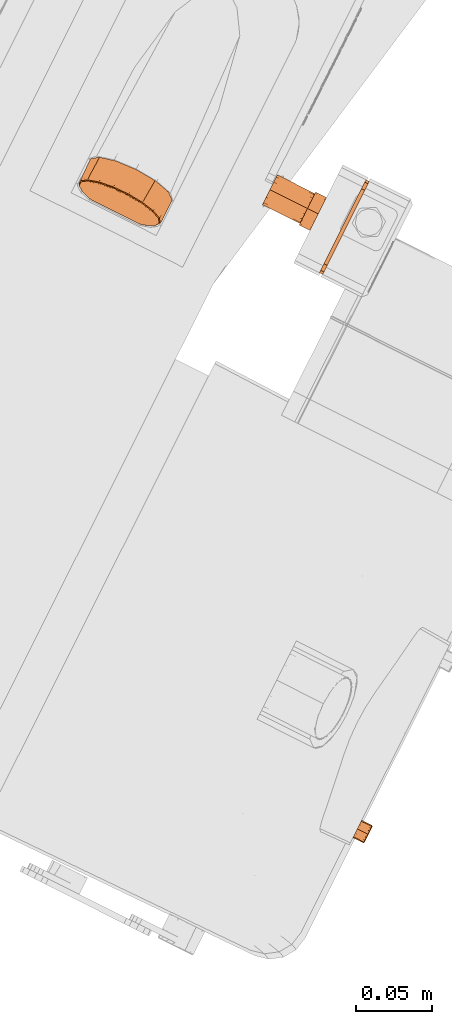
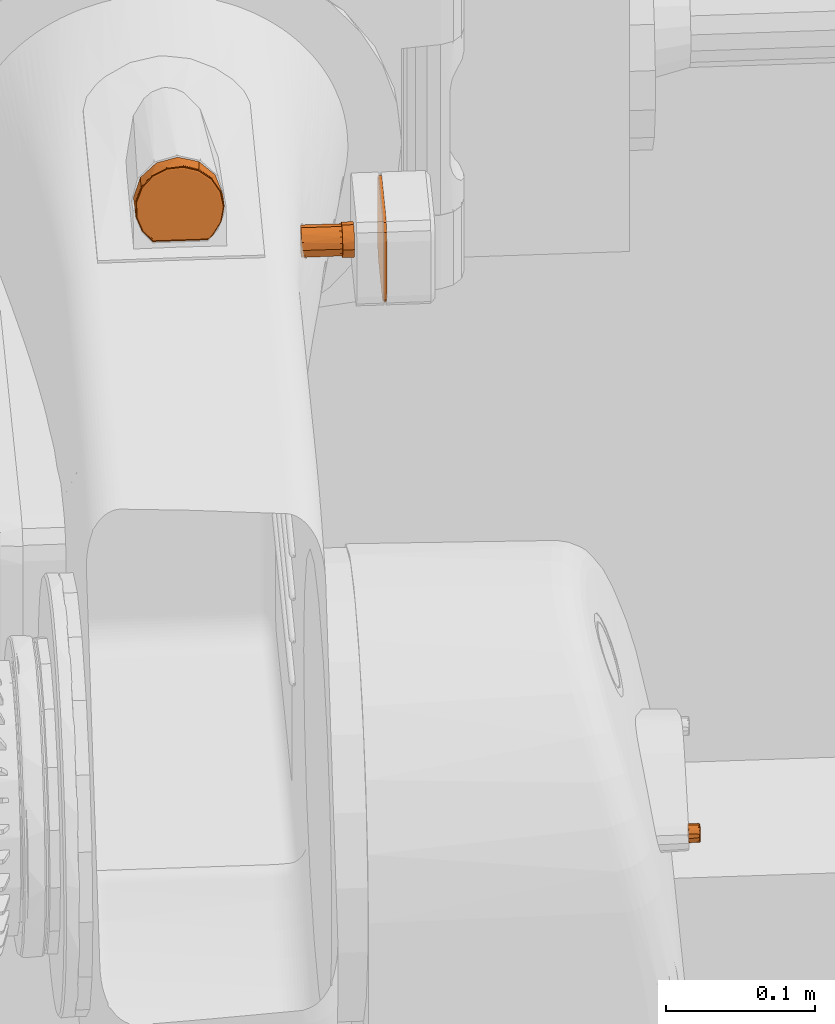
# One storey, part 198 of 206: 4 proxies.
"""IFC2X3 building model written with IfcOpenShell, lengths in metres."""

from ifc_helpers import new_model, si_unit, derived_unit, direction, frame, origin, place, context, subcontext, project, spatial, face_set, faceted_brep, surface_model, source, transform, mapped, material, type_object, type_shapes, element, save


model = new_model("IFC2X3")

# Units and contexts
model_context = context("Model", 3, precision=5.2338327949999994e-05, world=origin(), true_north=direction((0.0, 1.0)))
body_context = subcontext(model_context, "Body", "Model", "MODEL_VIEW")
ifc_project = project(units=[si_unit("LENGTHUNIT", "METRE"), si_unit("AREAUNIT", "SQUARE_METRE"), si_unit("VOLUMEUNIT", "CUBIC_METRE"), si_unit("MASSUNIT", "GRAM", prefix="KILO"), si_unit("PLANEANGLEUNIT", "RADIAN"), derived_unit("THERMALTRANSMITTANCEUNIT", [(si_unit("MASSUNIT", "GRAM", prefix="KILO"), 1), (si_unit("THERMODYNAMICTEMPERATUREUNIT", "KELVIN"), -1), (si_unit("TIMEUNIT", "SECOND"), -3)])], contexts=[model_context])

# Site, building, storey
site_placement = place(None, frame((0.0, 0.0, 0.0), z_axis=(0.0, 0.0, 1.0), x_axis=(0.8939966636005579, -0.4480736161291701, 0.0)))
site = spatial("IfcSite", under=ifc_project, at=site_placement, Name="Default", CompositionType="ELEMENT")
building_placement = place(site_placement, origin())
building = spatial("IfcBuilding", under=site, at=building_placement, CompositionType="ELEMENT")
storey_placement = place(building_placement, origin())
storey = spatial("IfcBuildingStorey", under=building, at=storey_placement, Name="Erdgeschoss", CompositionType="ELEMENT", Elevation=0.0)

# Proxies
ifc_material_1 = material(Name="IfcSurfaceStyle #623543")
building_element_proxy_type_1 = type_object("IfcBuildingElementProxyType", Name="BuildingElementProxy 39:BuildingElementProxy 39", PredefinedType="NOTDEFINED", material=ifc_material_1)
shared_shape_1 = source(origin(), body_context, "Body", "Brep", [
    faceted_brep([(21.460558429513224, 4.428130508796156, 0.976398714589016), (21.460613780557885, 4.428845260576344, 0.9760400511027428), (21.464245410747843, 4.429382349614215, 0.9794378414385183), (21.464270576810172, 4.42973115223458, 0.9793198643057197), (21.47006530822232, 4.431833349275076, 0.9885121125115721), (21.470097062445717, 4.4321849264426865, 0.9884044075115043), (21.472096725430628, 4.434667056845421, 0.999003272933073), (21.47213077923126, 4.435021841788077, 0.9989074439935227), (21.470065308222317, 4.437500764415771, 1.009494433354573), (21.47009706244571, 4.437858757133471, 1.0094104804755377), (21.46424541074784, 4.439951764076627, 1.0185687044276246), (21.464270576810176, 4.440312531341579, 1.0184950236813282), (21.455423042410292, 4.441689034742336, 1.0250005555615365), (21.455438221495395, 4.442051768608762, 1.0249341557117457), (21.44478971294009, 4.442477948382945, 1.0279213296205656), (21.4447928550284, 4.4428415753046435, 1.027858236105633), (21.433781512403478, 4.442211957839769, 1.02693655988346), (21.43377219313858, 4.442575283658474, 1.026872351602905), (21.423885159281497, 4.440926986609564, 1.022179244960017), (21.423864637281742, 4.441288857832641, 1.022109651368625), (21.41643721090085, 4.438796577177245, 1.0142918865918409), (21.416408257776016, 4.439156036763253, 1.0142133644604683), (21.412443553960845, 4.436108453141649, 1.0043397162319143), (21.41241007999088, 4.436464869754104, 1.0042499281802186), (21.412443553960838, 4.433225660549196, 0.9936668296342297), (21.412410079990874, 4.433578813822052, 0.993564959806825), (21.416437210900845, 4.430537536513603, 0.9837146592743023), (21.416408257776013, 4.430887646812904, 0.9836015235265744), (21.42346963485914, 4.428130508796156, 0.9763987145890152), (21.423414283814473, 4.428845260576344, 0.9760400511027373), (21.423624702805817, 4.427619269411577, 0.9769981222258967), (21.416662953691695, 4.429912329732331, 0.9840283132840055), (21.412704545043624, 4.432576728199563, 0.9938926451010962), (21.412704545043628, 4.435434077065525, 1.004471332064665), (21.416662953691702, 4.438098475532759, 1.014335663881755), (21.424045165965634, 4.440210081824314, 1.0221534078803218), (21.433854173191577, 4.441483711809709, 1.0268687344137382), (21.444765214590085, 4.4417473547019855, 1.0278448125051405), (21.45530469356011, 4.440965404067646, 1.0249498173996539), (21.464049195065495, 4.439243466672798, 1.0185747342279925), (21.46981772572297, 4.436814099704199, 1.0095805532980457), (21.471831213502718, 4.434005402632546, 0.9991819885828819), (21.46981772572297, 4.431196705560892, 0.9887834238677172), (21.46404919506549, 4.428767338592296, 0.9797892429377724), (21.460403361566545, 4.427619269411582, 0.9769981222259), (21.423852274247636, 4.427381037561, 0.9777324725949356), (21.41708395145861, 4.429455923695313, 0.9844216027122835), (21.41319127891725, 4.432076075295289, 0.9941221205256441), (21.413191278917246, 4.434885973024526, 1.0045251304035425), (21.41708395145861, 4.4375061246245, 1.0142256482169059), (21.424343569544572, 4.439582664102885, 1.0219135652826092), (21.433989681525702, 4.440835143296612, 1.0265505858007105), (21.44471952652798, 4.441094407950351, 1.027510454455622), (21.455083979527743, 4.440325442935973, 1.0246635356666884), (21.463683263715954, 4.438632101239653, 1.0183943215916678), (21.469355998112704, 4.436243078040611, 1.0095495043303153), (21.471336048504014, 4.433481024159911, 0.9993236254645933), (21.469355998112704, 4.430718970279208, 0.9890977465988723), (21.463683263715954, 4.428329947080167, 0.980252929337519), (21.460175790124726, 4.427381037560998, 0.9777324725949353), (21.424119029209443, 4.427435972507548, 0.9784923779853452), (21.417643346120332, 4.429229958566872, 0.9848414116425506), (21.413838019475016, 4.431791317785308, 0.994324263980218), (21.413838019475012, 4.434538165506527, 1.004493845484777), (21.41764334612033, 4.4370995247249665, 1.0139766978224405), (21.424740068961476, 4.439129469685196, 1.0214921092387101), (21.43416973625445, 4.44035384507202, 1.0260250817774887), (21.444658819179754, 4.440607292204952, 1.026963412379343), (21.454790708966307, 4.439855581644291, 1.0241803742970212), (21.463197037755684, 4.438200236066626, 1.018051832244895), (21.46874248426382, 4.435864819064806, 1.0094054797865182), (21.4706781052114, 4.433164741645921, 0.9994090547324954), (21.46874248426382, 4.430464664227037, 0.9894126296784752), (21.463197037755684, 4.428129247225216, 0.9807662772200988), (21.45990903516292, 4.427435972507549, 0.978492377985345), (21.418108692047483, 4.429231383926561, 0.9851394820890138), (21.414376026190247, 4.431743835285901, 0.994441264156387), (21.414376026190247, 4.434438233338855, 1.004416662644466), (21.418108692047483, 4.436950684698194, 1.0137184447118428), (21.425069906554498, 4.438941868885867, 1.0210903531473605), (21.434319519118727, 4.440142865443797, 1.0255367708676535), (21.44460831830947, 4.440391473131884, 1.026457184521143), (21.454546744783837, 4.43965411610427, 1.0237272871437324), (21.462792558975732, 4.438030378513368, 1.0177157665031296), (21.4682321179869, 4.43573955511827, 1.0092345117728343), (21.470130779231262, 4.433091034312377, 0.9994289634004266), (21.468232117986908, 4.430442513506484, 0.9896234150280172), (21.462792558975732, 4.428151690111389, 0.981142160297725), (21.42341428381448, 4.44437828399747, 0.9718445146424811), (21.41439261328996, 4.447424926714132, 0.9831240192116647), (21.41200664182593, 4.451223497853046, 0.997187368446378), (21.416829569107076, 4.454861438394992, 1.010656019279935), (21.427702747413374, 4.457464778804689, 1.0202942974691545), (21.44201403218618, 4.458408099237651, 1.0237867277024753), (21.45632531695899, 4.457464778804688, 1.0202942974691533), (21.467198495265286, 4.454861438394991, 1.0106560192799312), (21.472021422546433, 4.451223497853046, 0.9971873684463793), (21.469635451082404, 4.44742492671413, 0.9831240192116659), (21.460613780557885, 4.4443782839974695, 0.9718445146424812)], [[[0, 1, 2]], [[2, 1, 3]], [[2, 3, 4]], [[4, 3, 5]], [[4, 5, 6]], [[6, 5, 7]], [[6, 7, 8]], [[8, 7, 9]], [[8, 9, 10]], [[10, 9, 11]], [[10, 11, 12]], [[12, 11, 13]], [[12, 13, 14]], [[14, 13, 15]], [[14, 15, 16]], [[16, 15, 17]], [[16, 17, 18]], [[18, 17, 19]], [[18, 19, 20]], [[20, 19, 21]], [[20, 21, 22]], [[22, 21, 23]], [[22, 23, 24]], [[24, 23, 25]], [[24, 25, 26]], [[26, 25, 27]], [[26, 27, 28]], [[28, 27, 29]], [[28, 30, 26]], [[26, 30, 31]], [[26, 31, 24]], [[24, 31, 32]], [[24, 32, 22]], [[22, 32, 33]], [[22, 33, 20]], [[20, 33, 34]], [[20, 34, 18]], [[18, 34, 35]], [[18, 35, 16]], [[16, 35, 36]], [[16, 36, 14]], [[14, 36, 37]], [[14, 37, 12]], [[12, 37, 38]], [[12, 38, 10]], [[10, 38, 39]], [[10, 39, 8]], [[8, 39, 40]], [[8, 40, 6]], [[6, 40, 41]], [[6, 41, 4]], [[4, 41, 42]], [[4, 42, 2]], [[2, 42, 43]], [[2, 43, 0]], [[0, 43, 44]], [[30, 45, 31]], [[31, 45, 46]], [[31, 46, 32]], [[32, 46, 47]], [[32, 47, 33]], [[33, 47, 48]], [[33, 48, 34]], [[34, 48, 49]], [[34, 49, 35]], [[35, 49, 50]], [[35, 50, 36]], [[36, 50, 51]], [[36, 51, 37]], [[37, 51, 52]], [[37, 52, 38]], [[38, 52, 53]], [[38, 53, 39]], [[39, 53, 54]], [[39, 54, 40]], [[40, 54, 55]], [[40, 55, 41]], [[41, 55, 56]], [[41, 56, 42]], [[42, 56, 57]], [[42, 57, 43]], [[43, 57, 58]], [[43, 58, 44]], [[44, 58, 59]], [[45, 60, 46]], [[46, 60, 61]], [[46, 61, 47]], [[47, 61, 62]], [[47, 62, 48]], [[48, 62, 63]], [[48, 63, 49]], [[49, 63, 64]], [[49, 64, 50]], [[50, 64, 65]], [[50, 65, 51]], [[51, 65, 66]], [[51, 66, 52]], [[52, 66, 67]], [[52, 67, 53]], [[53, 67, 68]], [[53, 68, 54]], [[54, 68, 69]], [[54, 69, 55]], [[55, 69, 70]], [[55, 70, 56]], [[56, 70, 71]], [[56, 71, 57]], [[57, 71, 72]], [[57, 72, 58]], [[58, 72, 73]], [[58, 73, 59]], [[59, 73, 74]], [[60, 75, 61]], [[61, 75, 62]], [[75, 76, 62]], [[62, 76, 63]], [[76, 77, 63]], [[63, 77, 64]], [[77, 78, 64]], [[64, 78, 65]], [[78, 79, 65]], [[65, 79, 66]], [[79, 80, 66]], [[66, 80, 67]], [[80, 81, 67]], [[67, 81, 68]], [[81, 82, 68]], [[68, 82, 69]], [[82, 83, 69]], [[69, 83, 70]], [[83, 84, 70]], [[70, 84, 71]], [[84, 85, 71]], [[71, 85, 72]], [[85, 86, 72]], [[72, 86, 73]], [[86, 87, 73]], [[73, 87, 74]], [[60, 45, 74]], [[74, 45, 59]], [[45, 30, 59]], [[59, 30, 44]], [[30, 28, 44]], [[44, 28, 0]], [[28, 29, 0]], [[0, 29, 1]], [[29, 27, 88]], [[88, 27, 89]], [[27, 25, 89]], [[89, 25, 90]], [[25, 23, 90]], [[90, 23, 91]], [[23, 21, 91]], [[91, 21, 19]], [[91, 19, 92]], [[92, 19, 17]], [[92, 17, 93]], [[93, 17, 15]], [[93, 15, 94]], [[94, 15, 13]], [[94, 13, 11]], [[94, 11, 95]], [[95, 11, 9]], [[95, 9, 96]], [[96, 9, 7]], [[96, 7, 97]], [[97, 7, 5]], [[97, 5, 3]], [[1, 98, 3]], [[3, 98, 97]], [[74, 87, 60]], [[60, 87, 75]], [[87, 86, 75]], [[75, 86, 76]], [[86, 85, 76]], [[76, 85, 77]], [[85, 84, 77]], [[77, 84, 78]], [[84, 83, 78]], [[78, 83, 79]], [[83, 82, 79]], [[79, 82, 80]], [[82, 81, 80]], [[1, 29, 98]], [[98, 29, 88]], [[98, 88, 97]], [[97, 88, 89]], [[97, 89, 96]], [[96, 89, 90]], [[96, 90, 95]], [[95, 90, 91]], [[95, 91, 94]], [[94, 91, 92]], [[94, 92, 93]]]),
])
type_shapes(building_element_proxy_type_1, [shared_shape_1])
proxy_1_placement = place(storey_placement, origin())
element("IfcBuildingElementProxy", 1, at=proxy_1_placement, inside=storey, type_object=building_element_proxy_type_1, material=ifc_material_1, Name="BuildingElementProxy 39", context=body_context, shape_type="MappedRepresentation", body=[
    mapped(shared_shape_1, transform((0.0, 0.0, 0.0), scale=1.0)),
])
ifc_material_2 = material(Name="IfcSurfaceStyle #631137")
building_element_proxy_type_2 = type_object("IfcBuildingElementProxyType", Name="BuildingElementProxy 42:BuildingElementProxy 42", PredefinedType="NOTDEFINED", material=ifc_material_2)
shared_shape_2 = source(origin(), body_context, "Body", "Brep", [
    faceted_brep([(21.579860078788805, 4.506741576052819, 0.898166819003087), (21.579860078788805, 4.464941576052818, 0.898166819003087), (21.579860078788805, 4.520041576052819, 0.9114668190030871), (21.579860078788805, 4.451641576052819, 0.9114668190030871), (21.579860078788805, 4.520041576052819, 0.9532668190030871), (21.579860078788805, 4.451641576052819, 0.953266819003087), (21.579860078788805, 4.5067415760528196, 0.9665668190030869), (21.579860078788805, 4.464941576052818, 0.9665668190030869), (21.579860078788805, 4.518259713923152, 0.9048168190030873), (21.579860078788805, 4.513391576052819, 0.8999486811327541), (21.579860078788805, 4.458291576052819, 0.8999486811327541), (21.579860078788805, 4.453423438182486, 0.904816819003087), (21.579860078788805, 4.453423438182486, 0.9599168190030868), (21.579860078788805, 4.45829157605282, 0.9647849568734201), (21.579860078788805, 4.513391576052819, 0.96478495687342), (21.579860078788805, 4.518259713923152, 0.9599168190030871), (21.582275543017, 4.451641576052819, 0.9114668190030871), (21.582275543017, 4.451641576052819, 0.953266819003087), (21.582275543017, 4.464941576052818, 0.898166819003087), (21.582275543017, 4.458291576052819, 0.8999486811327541), (21.582275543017, 4.453423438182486, 0.904816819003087), (21.582275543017, 4.506741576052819, 0.8981668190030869), (21.582275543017, 4.520041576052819, 0.9114668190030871), (21.582275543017, 4.518259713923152, 0.9048168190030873), (21.582275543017, 4.513391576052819, 0.8999486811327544), (21.582275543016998, 4.520041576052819, 0.9532668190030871), (21.582275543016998, 4.464941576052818, 0.9665668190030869), (21.582275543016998, 4.5067415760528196, 0.9665668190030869), (21.582275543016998, 4.518259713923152, 0.9599168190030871), (21.582275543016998, 4.513391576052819, 0.96478495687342), (21.582275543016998, 4.45829157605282, 0.9647849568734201), (21.582275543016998, 4.453423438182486, 0.9599168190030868)], [[[0, 1, 2]], [[2, 1, 3]], [[2, 3, 4]], [[4, 3, 5]], [[4, 5, 6]], [[6, 5, 7]], [[8, 9, 2]], [[2, 9, 0]], [[1, 10, 3]], [[3, 10, 11]], [[5, 12, 7]], [[7, 12, 13]], [[14, 15, 6]], [[6, 15, 4]], [[16, 17, 3]], [[3, 17, 5]], [[18, 19, 1]], [[1, 19, 10]], [[19, 20, 10]], [[10, 20, 11]], [[20, 16, 11]], [[11, 16, 3]], [[0, 21, 1]], [[1, 21, 18]], [[22, 23, 2]], [[2, 23, 8]], [[23, 24, 8]], [[8, 24, 9]], [[24, 21, 9]], [[9, 21, 0]], [[20, 18, 16]], [[16, 18, 21]], [[16, 21, 22]], [[22, 21, 23]], [[20, 19, 18]], [[21, 24, 23]], [[16, 22, 17]], [[17, 22, 25]], [[17, 25, 26]], [[26, 25, 27]], [[28, 29, 25]], [[25, 29, 27]], [[26, 30, 17]], [[17, 30, 31]], [[25, 22, 4]], [[4, 22, 2]], [[27, 29, 6]], [[6, 29, 14]], [[29, 28, 14]], [[14, 28, 15]], [[28, 25, 15]], [[15, 25, 4]], [[7, 26, 6]], [[6, 26, 27]], [[17, 31, 5]], [[5, 31, 12]], [[31, 30, 12]], [[12, 30, 13]], [[30, 26, 13]], [[13, 26, 7]]]),
])
type_shapes(building_element_proxy_type_2, [shared_shape_2])
proxy_2_placement = place(storey_placement, origin())
element("IfcBuildingElementProxy", 2, at=proxy_2_placement, inside=storey, type_object=building_element_proxy_type_2, material=ifc_material_2, Name="BuildingElementProxy 42", context=body_context, shape_type="MappedRepresentation", body=[
    mapped(shared_shape_2, transform((0.0, 0.0, 0.0), scale=1.0)),
])
ifc_material_3 = material(Name="IfcSurfaceStyle #624876")
building_element_proxy_type_3 = type_object("IfcBuildingElementProxyType", Name="BuildingElementProxy 46:BuildingElementProxy 46", PredefinedType="NOTDEFINED", material=ifc_material_3)
shared_shape_3 = source(origin(), body_context, "Body", "Brep", [
    faceted_brep([(21.56192166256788, 4.479808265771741, 0.921916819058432), (21.56192166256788, 4.491874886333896, 0.921916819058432), (21.56192166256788, 4.475391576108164, 0.9263335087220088), (21.56192166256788, 4.496291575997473, 0.9263335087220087), (21.56192166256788, 4.473774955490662, 0.9323668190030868), (21.56192166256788, 4.497908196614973, 0.9323668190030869), (21.56192166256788, 4.475391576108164, 0.9384001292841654), (21.56192166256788, 4.496291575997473, 0.9384001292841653), (21.56192166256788, 4.47980826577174, 0.9428168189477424), (21.56192166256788, 4.491874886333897, 0.942816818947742), (21.56192166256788, 4.485841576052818, 0.9444334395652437), (21.56192166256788, 4.4858415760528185, 0.9203001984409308), (21.553921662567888, 4.474693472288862, 0.9369845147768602), (21.553921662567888, 4.473774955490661, 0.9323668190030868), (21.553921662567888, 4.474693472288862, 0.9277491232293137), (21.553921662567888, 4.477309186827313, 0.9238344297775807), (21.553921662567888, 4.481223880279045, 0.9212187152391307), (21.553921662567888, 4.4858415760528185, 0.9203001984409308), (21.553921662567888, 4.490459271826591, 0.9212187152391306), (21.553921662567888, 4.494373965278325, 0.9238344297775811), (21.553921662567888, 4.496989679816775, 0.9277491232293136), (21.553921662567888, 4.497908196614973, 0.9323668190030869), (21.553921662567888, 4.4969896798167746, 0.9369845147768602), (21.553921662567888, 4.494373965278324, 0.9408992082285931), (21.553921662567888, 4.490459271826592, 0.9435149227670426), (21.553921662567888, 4.485841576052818, 0.9444334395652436), (21.553921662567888, 4.481223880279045, 0.9435149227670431), (21.553921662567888, 4.477309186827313, 0.9408992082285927), (21.553921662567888, 4.4816436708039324, 0.9425014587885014), (21.553921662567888, 4.485841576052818, 0.9433364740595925), (21.526421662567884, 4.485841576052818, 0.9433364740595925), (21.553921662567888, 4.490039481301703, 0.9425014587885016), (21.526421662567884, 4.491326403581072, 0.9418668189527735), (21.553921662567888, 4.493598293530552, 0.9401235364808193), (21.526421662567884, 4.495341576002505, 0.9378516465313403), (21.553921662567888, 4.495976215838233, 0.9365647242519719), (21.526421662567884, 4.496811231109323, 0.9323668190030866), (21.553921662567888, 4.496811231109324, 0.9323668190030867), (21.553921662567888, 4.495976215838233, 0.9281689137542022), (21.526421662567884, 4.4803567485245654, 0.9418668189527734), (21.553921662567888, 4.4780848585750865, 0.9401235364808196), (21.526421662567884, 4.476341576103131, 0.9378516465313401), (21.553921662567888, 4.475706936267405, 0.9365647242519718), (21.526421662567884, 4.4748719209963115, 0.9323668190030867), (21.553921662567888, 4.474871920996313, 0.9323668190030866), (21.553921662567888, 4.475706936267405, 0.9281689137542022), (21.526421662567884, 4.476341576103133, 0.9268819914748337), (21.553921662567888, 4.478084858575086, 0.9246101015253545), (21.526421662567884, 4.480356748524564, 0.9228668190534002), (21.553921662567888, 4.4816436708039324, 0.9222321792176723), (21.526421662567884, 4.485841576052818, 0.9213971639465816), (21.553921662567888, 4.485841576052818, 0.9213971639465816), (21.553921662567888, 4.490039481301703, 0.922232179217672), (21.526421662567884, 4.491326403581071, 0.9228668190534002), (21.553921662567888, 4.4935982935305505, 0.9246101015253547), (21.526421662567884, 4.495341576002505, 0.9268819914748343)], [[[0, 1, 2]], [[2, 1, 3]], [[2, 3, 4]], [[4, 3, 5]], [[4, 5, 6]], [[6, 5, 7]], [[6, 7, 8]], [[8, 7, 9]], [[8, 9, 10]], [[0, 11, 1]], [[12, 13, 4]], [[4, 13, 14]], [[4, 14, 2]], [[2, 14, 15]], [[2, 15, 0]], [[0, 15, 16]], [[0, 16, 11]], [[11, 16, 17]], [[11, 17, 18]], [[11, 18, 1]], [[1, 18, 19]], [[1, 19, 3]], [[3, 19, 20]], [[3, 20, 5]], [[5, 20, 21]], [[5, 21, 22]], [[5, 22, 7]], [[7, 22, 23]], [[7, 23, 9]], [[9, 23, 24]], [[9, 24, 10]], [[10, 24, 25]], [[10, 25, 26]], [[10, 26, 8]], [[8, 26, 27]], [[8, 27, 6]], [[6, 27, 12]], [[6, 12, 4]], [[28, 29, 30]], [[30, 29, 31]], [[30, 31, 32]], [[32, 31, 33]], [[32, 33, 34]], [[34, 33, 35]], [[34, 35, 36]], [[36, 35, 37]], [[36, 37, 38]], [[30, 39, 28]], [[28, 39, 40]], [[39, 41, 40]], [[40, 41, 42]], [[41, 43, 42]], [[42, 43, 44]], [[44, 43, 45]], [[45, 43, 46]], [[45, 46, 47]], [[47, 46, 48]], [[47, 48, 49]], [[49, 48, 50]], [[49, 50, 51]], [[51, 50, 52]], [[50, 53, 52]], [[52, 53, 54]], [[53, 55, 54]], [[54, 55, 38]], [[55, 36, 38]], [[36, 55, 34]], [[34, 55, 32]], [[55, 53, 32]], [[32, 53, 30]], [[53, 50, 30]], [[30, 50, 39]], [[50, 48, 39]], [[39, 48, 41]], [[48, 46, 41]], [[41, 46, 43]], [[42, 44, 13]], [[13, 44, 45]], [[13, 45, 14]], [[14, 45, 47]], [[14, 47, 15]], [[15, 47, 49]], [[15, 49, 16]], [[16, 49, 51]], [[16, 51, 17]], [[17, 51, 18]], [[51, 52, 18]], [[18, 52, 19]], [[52, 54, 19]], [[19, 54, 20]], [[54, 38, 20]], [[20, 38, 21]], [[38, 37, 21]], [[21, 37, 22]], [[37, 35, 22]], [[22, 35, 33]], [[22, 33, 23]], [[23, 33, 31]], [[23, 31, 24]], [[24, 31, 29]], [[24, 29, 25]], [[25, 29, 26]], [[29, 28, 26]], [[26, 28, 27]], [[28, 40, 27]], [[27, 40, 12]], [[40, 42, 12]], [[12, 42, 13]]]),
])
type_shapes(building_element_proxy_type_3, [shared_shape_3])
proxy_3_placement = place(storey_placement, origin())
element("IfcBuildingElementProxy", 3, at=proxy_3_placement, inside=storey, type_object=building_element_proxy_type_3, material=ifc_material_3, Name="BuildingElementProxy 46", context=body_context, shape_type="MappedRepresentation", body=[
    mapped(shared_shape_3, transform((0.0, 0.0, 0.0), scale=1.0)),
])
building_element_proxy_type_4 = type_object("IfcBuildingElementProxyType", Name="BuildingElementProxy 53:BuildingElementProxy 53", PredefinedType="NOTDEFINED", material=ifc_material_2)
shared_shape_4 = source(origin(), body_context, "Body", "SurfaceModel", [
    surface_model("IfcFaceBasedSurfaceModel", [(21.772947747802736, 4.13403603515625, 0.6884261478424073), (21.773131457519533, 4.1340424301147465, 0.6884102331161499), (21.772947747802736, 4.136384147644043, 0.6888650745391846), (21.773131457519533, 4.136384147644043, 0.6888479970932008), (21.772947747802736, 4.138732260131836, 0.6884261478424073), (21.773131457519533, 4.138726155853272, 0.6884102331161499), (21.772947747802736, 4.140763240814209, 0.687168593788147), (21.773131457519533, 4.1407519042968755, 0.6871560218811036), (21.772947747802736, 4.1422026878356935, 0.6852623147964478), (21.773131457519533, 4.142187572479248, 0.6852547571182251), (21.772947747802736, 4.142856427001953, 0.6829647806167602), (21.773131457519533, 4.142839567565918, 0.6829631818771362), (21.772947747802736, 4.1426360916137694, 0.680586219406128), (21.773131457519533, 4.142619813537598, 0.6805908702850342), (21.772947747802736, 4.14157133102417, 0.6784479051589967), (21.773131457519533, 4.141557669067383, 0.678458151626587), (21.772947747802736, 4.139806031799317, 0.6768386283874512), (21.773131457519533, 4.139797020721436, 0.6768530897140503), (21.772947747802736, 4.137578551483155, 0.6759756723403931), (21.773131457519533, 4.137575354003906, 0.6759924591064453), (21.772947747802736, 4.135189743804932, 0.6759756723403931), (21.773131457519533, 4.1351929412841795, 0.6759924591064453), (21.772947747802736, 4.1329622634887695, 0.6768386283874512), (21.773131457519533, 4.132971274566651, 0.6768530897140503), (21.772947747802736, 4.131196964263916, 0.6784479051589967), (21.773131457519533, 4.131210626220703, 0.678458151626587), (21.772947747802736, 4.130132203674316, 0.680586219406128), (21.773131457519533, 4.13014877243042, 0.6805908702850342), (21.772947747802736, 4.129911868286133, 0.6829647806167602), (21.773131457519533, 4.1299290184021, 0.6829631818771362), (21.772947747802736, 4.130565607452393, 0.6852623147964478), (21.773131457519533, 4.1305810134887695, 0.6852547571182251), (21.772947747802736, 4.132005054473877, 0.687168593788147), (21.773131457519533, 4.132016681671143, 0.6871560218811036), (21.773947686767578, 4.136384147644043, 0.6878650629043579), (21.773947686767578, 4.138370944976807, 0.6874936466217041), (21.77391047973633, 4.138469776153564, 0.6877488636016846), (21.77391047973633, 4.136384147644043, 0.6881387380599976), (21.773947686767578, 4.134397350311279, 0.6874936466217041), (21.77391047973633, 4.134298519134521, 0.6877488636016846), (21.773947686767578, 4.13267885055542, 0.6864296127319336), (21.77391047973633, 4.13249455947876, 0.6866318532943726), (21.773947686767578, 4.131460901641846, 0.6848166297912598), (21.77391047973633, 4.1312158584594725, 0.6849385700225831), (21.773947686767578, 4.130907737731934, 0.6828724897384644), (21.77391047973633, 4.130635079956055, 0.6828977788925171), (21.773947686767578, 4.131094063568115, 0.6808598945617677), (21.77391047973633, 4.130830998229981, 0.6807849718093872), (21.773947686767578, 4.131995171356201, 0.6790505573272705), (21.77391047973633, 4.131776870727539, 0.6788855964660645), (21.773947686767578, 4.1334889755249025, 0.6776888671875), (21.77391047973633, 4.1333447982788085, 0.6774561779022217), (21.773947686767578, 4.135373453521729, 0.6769586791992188), (21.77391047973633, 4.1353231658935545, 0.6766896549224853), (21.773947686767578, 4.1373948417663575, 0.6769586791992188), (21.77391047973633, 4.137445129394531, 0.6766896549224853), (21.773947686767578, 4.139279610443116, 0.6776888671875), (21.77391047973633, 4.139423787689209, 0.6774561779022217), (21.773947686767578, 4.140773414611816, 0.6790505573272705), (21.77391047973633, 4.140991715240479, 0.6788855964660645), (21.773947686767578, 4.141674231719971, 0.6808598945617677), (21.77391047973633, 4.141937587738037, 0.6807849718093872), (21.773947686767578, 4.141860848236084, 0.6828724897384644), (21.77391047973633, 4.142133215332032, 0.6828977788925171), (21.773947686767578, 4.141307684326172, 0.6848166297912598), (21.77391047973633, 4.141552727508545, 0.6849385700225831), (21.773947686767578, 4.140089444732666, 0.6864296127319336), (21.77391047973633, 4.140274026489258, 0.6866318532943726), (21.773473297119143, 4.136384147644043, 0.6887153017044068), (21.773473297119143, 4.138678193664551, 0.688286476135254), (21.773473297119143, 4.14066237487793, 0.6870579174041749), (21.773473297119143, 4.142068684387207, 0.6851956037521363), (21.773473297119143, 4.142707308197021, 0.6829509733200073), (21.773473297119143, 4.142491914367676, 0.6806272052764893), (21.773473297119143, 4.141451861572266, 0.678538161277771), (21.773473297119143, 4.139727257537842, 0.6769659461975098), (21.773473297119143, 4.137550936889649, 0.676122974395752), (21.773473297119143, 4.135217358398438, 0.676122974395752), (21.773473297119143, 4.133041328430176, 0.6769659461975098), (21.773473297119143, 4.131316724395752, 0.678538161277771), (21.773473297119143, 4.13027638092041, 0.6806272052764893), (21.773473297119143, 4.130060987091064, 0.6829509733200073), (21.773473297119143, 4.130699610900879, 0.6851956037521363), (21.773473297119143, 4.132106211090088, 0.6870579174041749), (21.773473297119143, 4.134090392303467, 0.688286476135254), (21.773745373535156, 4.136384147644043, 0.6884677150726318), (21.773745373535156, 4.138588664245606, 0.6880556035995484), (21.773745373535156, 4.140495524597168, 0.686874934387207), (21.773745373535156, 4.141847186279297, 0.6850852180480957), (21.773745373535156, 4.14246081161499, 0.6829281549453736), (21.773745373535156, 4.142253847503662, 0.6806950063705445), (21.773745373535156, 4.14125419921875, 0.6786873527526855), (21.773745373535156, 4.139596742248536, 0.6771764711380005), (21.773745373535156, 4.137505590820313, 0.6763662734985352), (21.773745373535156, 4.135262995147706, 0.6763662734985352), (21.773745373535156, 4.133171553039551, 0.6771764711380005), (21.773745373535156, 4.131514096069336, 0.6786873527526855), (21.773745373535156, 4.1305144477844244, 0.6806950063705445), (21.773745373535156, 4.1303074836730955, 0.6829281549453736), (21.773745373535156, 4.130921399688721, 0.6850852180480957), (21.773745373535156, 4.132272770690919, 0.686874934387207), (21.773745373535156, 4.134179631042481, 0.6880556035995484), (21.76573888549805, 4.130755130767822, 0.6856150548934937), (21.76573888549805, 4.133134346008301, 0.6879941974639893), (21.76573888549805, 4.136384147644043, 0.6888650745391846), (21.76573888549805, 4.1298842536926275, 0.6823650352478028), (21.76573888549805, 4.130755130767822, 0.6791150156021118), (21.76573888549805, 4.133134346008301, 0.6767358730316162), (21.76573888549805, 4.136384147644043, 0.6758649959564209), (21.76573888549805, 4.139634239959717, 0.6767358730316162), (21.76573888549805, 4.142013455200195, 0.6791150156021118), (21.76573888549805, 4.142884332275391, 0.6823650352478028), (21.76573888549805, 4.142013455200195, 0.6856150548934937), (21.76573888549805, 4.139634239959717, 0.6879941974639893), (21.773947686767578, 4.136384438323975, 0.6823650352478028), (21.76573888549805, 4.136384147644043, 0.6823651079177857)], [face_set([[[0, 1, 2]], [[2, 1, 3]], [[2, 3, 4]], [[4, 3, 5]], [[4, 5, 6]], [[6, 5, 7]], [[6, 7, 8]], [[8, 7, 9]], [[8, 9, 10]], [[10, 9, 11]], [[10, 11, 12]], [[12, 11, 13]], [[12, 13, 14]], [[14, 13, 15]], [[14, 15, 16]], [[16, 15, 17]], [[16, 17, 18]], [[18, 17, 19]], [[18, 19, 20]], [[20, 19, 21]], [[20, 21, 22]], [[22, 21, 23]], [[22, 23, 24]], [[24, 23, 25]], [[24, 25, 26]], [[26, 25, 27]], [[26, 27, 28]], [[28, 27, 29]], [[28, 29, 30]], [[30, 29, 31]], [[30, 31, 32]], [[32, 31, 33]], [[32, 33, 0]], [[0, 33, 1]], [[34, 35, 36]], [[37, 34, 36]], [[38, 34, 37]], [[39, 38, 37]], [[40, 38, 39]], [[41, 40, 39]], [[42, 40, 41]], [[43, 42, 41]], [[44, 42, 43]], [[45, 44, 43]], [[46, 44, 45]], [[47, 46, 45]], [[48, 46, 47]], [[49, 48, 47]], [[50, 48, 49]], [[51, 50, 49]], [[52, 50, 51]], [[53, 52, 51]], [[54, 52, 53]], [[55, 54, 53]], [[56, 54, 55]], [[57, 56, 55]], [[58, 56, 57]], [[59, 58, 57]], [[60, 58, 59]], [[61, 60, 59]], [[62, 60, 61]], [[63, 62, 61]], [[64, 62, 63]], [[65, 64, 63]], [[66, 64, 65]], [[67, 66, 65]], [[35, 66, 67]], [[36, 35, 67]], [[3, 68, 5]], [[5, 68, 69]], [[5, 69, 7]], [[7, 69, 70]], [[7, 70, 9]], [[9, 70, 71]], [[9, 71, 11]], [[11, 71, 72]], [[11, 72, 13]], [[13, 72, 73]], [[13, 73, 15]], [[15, 73, 74]], [[15, 74, 17]], [[17, 74, 75]], [[17, 75, 19]], [[19, 75, 76]], [[19, 76, 21]], [[21, 76, 77]], [[21, 77, 23]], [[23, 77, 78]], [[23, 78, 25]], [[25, 78, 79]], [[25, 79, 27]], [[27, 79, 80]], [[27, 80, 29]], [[29, 80, 81]], [[29, 81, 31]], [[31, 81, 82]], [[31, 82, 33]], [[33, 82, 83]], [[33, 83, 1]], [[1, 83, 84]], [[1, 84, 3]], [[3, 84, 68]], [[68, 85, 69]], [[69, 85, 86]], [[69, 86, 70]], [[70, 86, 87]], [[70, 87, 71]], [[71, 87, 88]], [[71, 88, 72]], [[72, 88, 89]], [[72, 89, 73]], [[73, 89, 90]], [[73, 90, 74]], [[74, 90, 91]], [[74, 91, 75]], [[75, 91, 92]], [[75, 92, 76]], [[76, 92, 93]], [[76, 93, 77]], [[77, 93, 94]], [[77, 94, 78]], [[78, 94, 95]], [[78, 95, 79]], [[79, 95, 96]], [[79, 96, 80]], [[80, 96, 97]], [[80, 97, 81]], [[81, 97, 98]], [[81, 98, 82]], [[82, 98, 99]], [[82, 99, 83]], [[83, 99, 100]], [[83, 100, 84]], [[84, 100, 101]], [[84, 101, 68]], [[68, 101, 85]], [[85, 37, 86]], [[86, 37, 36]], [[86, 36, 87]], [[87, 36, 67]], [[87, 67, 88]], [[88, 67, 65]], [[88, 65, 89]], [[89, 65, 63]], [[89, 63, 90]], [[90, 63, 61]], [[90, 61, 91]], [[91, 61, 59]], [[91, 59, 92]], [[92, 59, 57]], [[92, 57, 93]], [[93, 57, 55]], [[93, 55, 94]], [[94, 55, 53]], [[94, 53, 95]], [[95, 53, 51]], [[95, 51, 96]], [[96, 51, 49]], [[96, 49, 97]], [[97, 49, 47]], [[97, 47, 98]], [[98, 47, 45]], [[98, 45, 99]], [[99, 45, 43]], [[99, 43, 100]], [[100, 43, 41]], [[100, 41, 101]], [[101, 41, 39]], [[101, 39, 85]], [[85, 39, 37]], [[28, 30, 102]], [[102, 30, 32]], [[102, 32, 103]], [[103, 32, 0]], [[103, 0, 104]], [[104, 0, 2]], [[104, 2, 4]], [[102, 105, 28]], [[28, 105, 26]], [[105, 106, 26]], [[26, 106, 24]], [[106, 107, 24]], [[24, 107, 22]], [[22, 107, 20]], [[20, 107, 108]], [[20, 108, 18]], [[18, 108, 109]], [[18, 109, 16]], [[14, 16, 109]], [[109, 110, 14]], [[14, 110, 12]], [[110, 111, 12]], [[12, 111, 10]], [[111, 112, 10]], [[10, 112, 8]], [[8, 112, 6]], [[6, 112, 113]], [[6, 113, 4]], [[4, 113, 104]], [[62, 64, 114]], [[114, 64, 66]], [[114, 66, 35]], [[114, 35, 34]], [[54, 56, 114]], [[114, 56, 58]], [[114, 58, 60]], [[114, 60, 62]], [[44, 46, 114]], [[114, 46, 48]], [[114, 48, 50]], [[114, 50, 52]], [[34, 38, 114]], [[114, 38, 40]], [[114, 40, 42]], [[114, 42, 44]], [[52, 54, 114]], [[103, 104, 115]], [[115, 104, 113]], [[115, 113, 112]], [[115, 112, 111]], [[115, 111, 110]], [[115, 110, 109]], [[115, 109, 108]], [[108, 107, 115]], [[115, 107, 106]], [[115, 106, 105]], [[115, 105, 102]], [[115, 102, 103]]])]),
])
type_shapes(building_element_proxy_type_4, [shared_shape_4])
proxy_4_placement = place(storey_placement, origin())
element("IfcBuildingElementProxy", 4, at=proxy_4_placement, inside=storey, type_object=building_element_proxy_type_4, material=ifc_material_2, Name="BuildingElementProxy 53", context=body_context, shape_type="MappedRepresentation", body=[
    mapped(shared_shape_4, transform((0.0, 0.0, 0.0), scale=1.0)),
])

save(model, "model.ifc")
